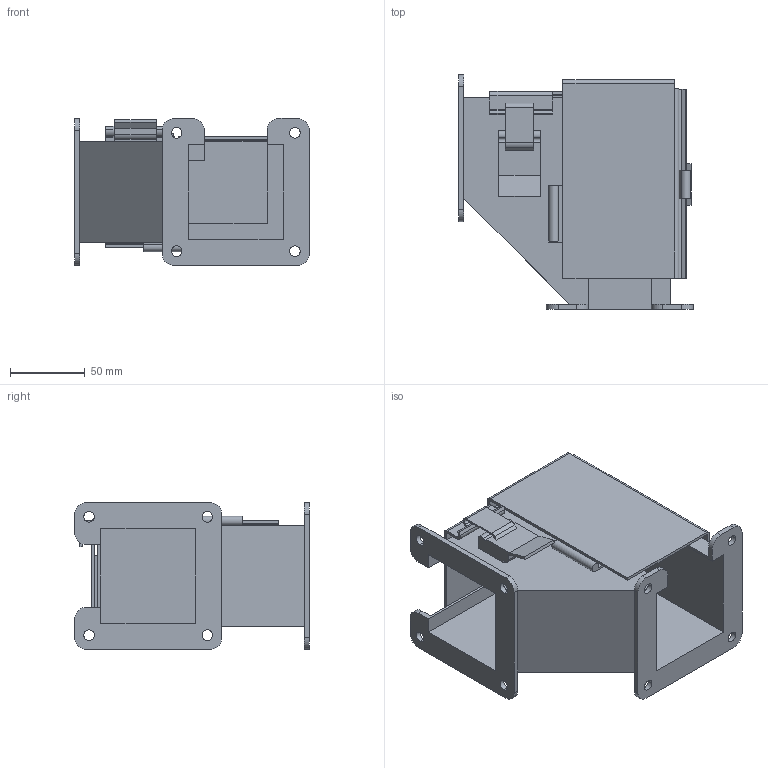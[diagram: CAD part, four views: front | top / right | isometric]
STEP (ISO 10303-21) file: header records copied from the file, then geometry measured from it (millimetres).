
FILE_DESCRIPTION((''),'1');
FILE_NAME('1','2001-04-18T',('jlue'),(''),'PRO/ENGINEER BY PARAMETRIC TECHNOLOGY CORPORATION, 9846','PRO/ENGINEER BY PARAMETRIC TECHNOLOGY CORPORATION, 9846','');
FILE_SCHEMA(('CONFIG_CONTROL_DESIGN'));
Length unit declared in the file: inch
Products named in the file (1): 1
Bounding box: 157.23 x 157.23 x 98.55 mm (x, y, z)
Surface area: 175773.5 mm2 (no closed solid volume)
Topology: 0 solids, 0 shells, 179 faces, 1042 edges, 1050 vertices
Faces by surface type: plane 121, cylinder 58
Entity records: 5098 total; most frequent: COMPOSITE_CURVE_SEGMENT 1034, DIRECTION 1001, CARTESIAN_POINT 704, TRIMMED_CURVE 525, VECTOR 407, LINE 407, AXIS2_PLACEMENT_3D 297, CURVE_BOUNDED_SURFACE 179
